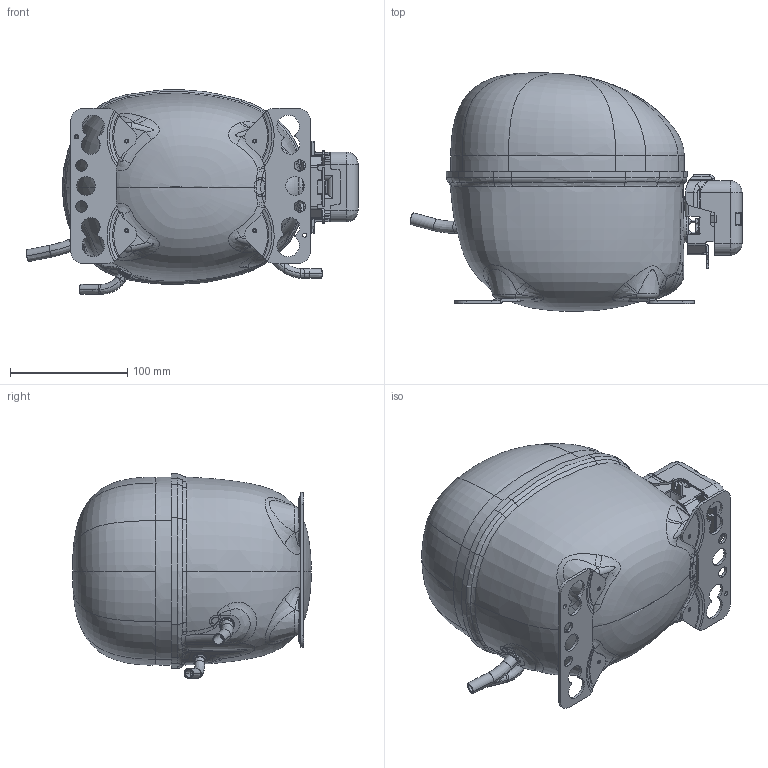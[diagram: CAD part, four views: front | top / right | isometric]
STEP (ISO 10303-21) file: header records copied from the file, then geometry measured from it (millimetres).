
FILE_DESCRIPTION((''),'2;1');
FILE_NAME('105H6364_ASM','2026-03-18T10:37:26',('SKHC0530'),(''),'CREO PARAMETRIC BY PTC INC, 2022162','CREO PARAMETRIC BY PTC INC, 2022162','');
FILE_SCHEMA(('CONFIG_CONTROL_DESIGN'));
Products named in the file (16): 103F4498_HOUSING; 117-3617_BODY; 117-3617_PINS; 117-3617_GLASS_FUSED; 117-3617_ASM; 103F4573; 102B1612; 104B0504; 103N0510; 102B1978_90_SUCT_T_BENT15; 102B1830_BENT_PS; 103F4618_BENT_PS; 103F4220_NLV_HOUSING_ASM; 103F4311_COVER_NLE_48_5; 103N2008; 105H6364_ASM
Assembly tree (23 placements, depth 4):
  105H6364_ASM
    103F4220_NLV_HOUSING_ASM
      103F4498_HOUSING
      117-3617_ASM
        117-3617_BODY
        117-3617_PINS  x3
        117-3617_GLASS_FUSED  x3
      103F4573  x2
      102B1612  x4
      104B0504
      103N0510
      102B1978_90_SUCT_T_BENT15
      102B1830_BENT_PS
      103F4618_BENT_PS
    103F4311_COVER_NLE_48_5
    103N2008
Bounding box: 282.71 x 203.01 x 174.32 mm (x, y, z)
Volume: 466559 mm3; surface area: 343195.3 mm2
Topology: 21 solids, 21 shells, 1770 faces, 4435 edges, 2708 vertices
Faces by surface type: bspline 584, plane 374, cylinder 306, extrusion 209, torus 152, cone 97, sphere 30, revolution 18
Entity records: 111004 total; most frequent: CARTESIAN_POINT 76417, ORIENTED_EDGE 8122, DIRECTION 5477, EDGE_CURVE 4061, VERTEX_POINT 2499, AXIS2_PLACEMENT_3D 1953, B_SPLINE_CURVE_WITH_KNOTS 1859, EDGE_LOOP 1688
